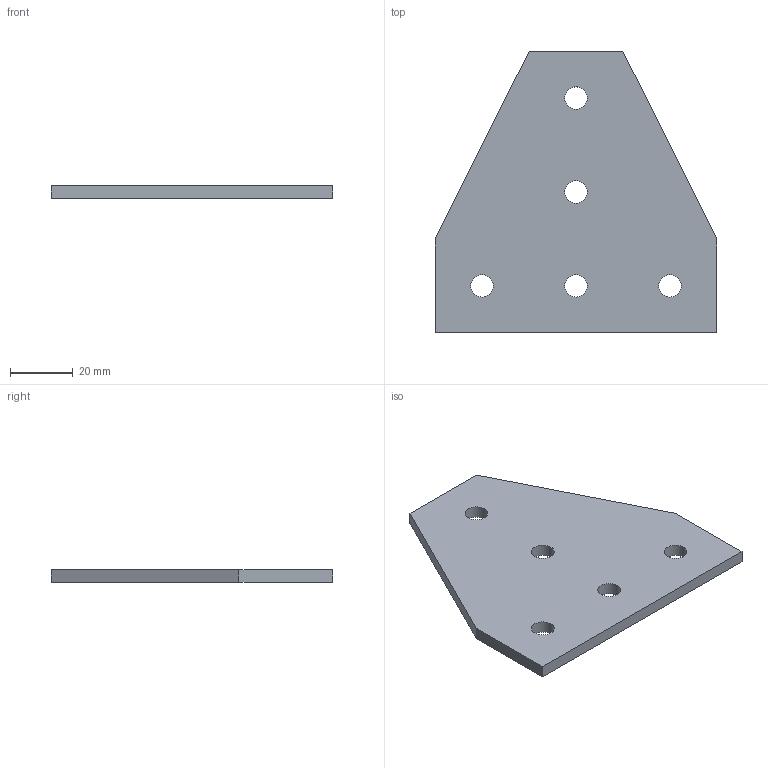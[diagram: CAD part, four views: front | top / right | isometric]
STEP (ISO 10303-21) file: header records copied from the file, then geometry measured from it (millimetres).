
FILE_DESCRIPTION(/* description */ (''),/* implementation_level */ '2;1');
FILE_NAME(/* name */ 'Plate Connector - T - Single Slot - 30 Series - Aluminium - Silver.step',/* time_stamp */ '2025-10-18T03:44:03+03:00',/* author */ (''),/* organization */ (''),/* preprocessor_version */ 'ST-DEVELOPER v20.1',/* originating_system */ 'Autodesk Translation Framework v14.17.0.0',/* authorisation */ '');
FILE_SCHEMA (('AUTOMOTIVE_DESIGN { 1 0 10303 214 3 1 1 }'));
Length unit declared in the file: millimetre
Products named in the file (1): Plate Connector - T - Single Slot - 30 Series - Aluminium - Silver
Bounding box: 90 x 90 x 4 mm (x, y, z)
Volume: 24385.7 mm3; surface area: 13901.9 mm2
Topology: 1 solids, 1 shells, 13 faces, 33 edges, 22 vertices
Faces by surface type: plane 8, cylinder 5
Full cylindrical faces by diameter (mm): 7.2 x5
Entity records: 450 total; most frequent: DIRECTION 71, CARTESIAN_POINT 69, ORIENTED_EDGE 66, EDGE_CURVE 33, AXIS2_PLACEMENT_3D 24, EDGE_LOOP 23, LINE 23, VECTOR 23
